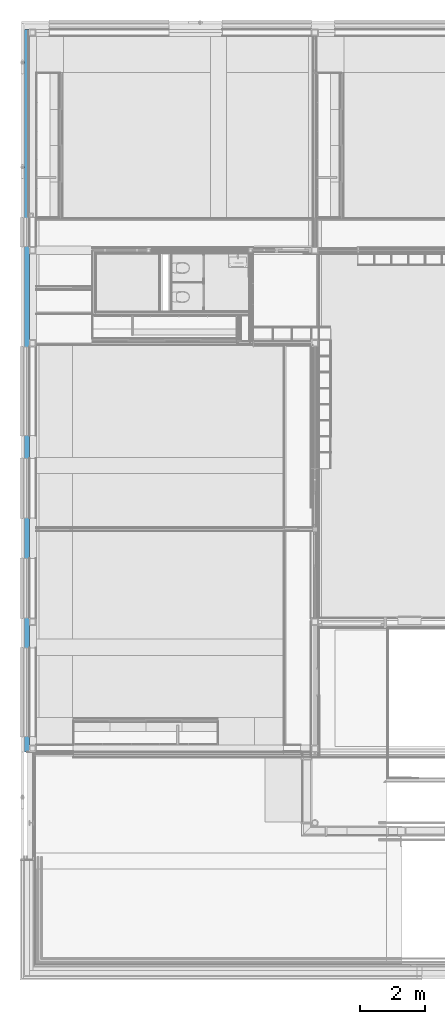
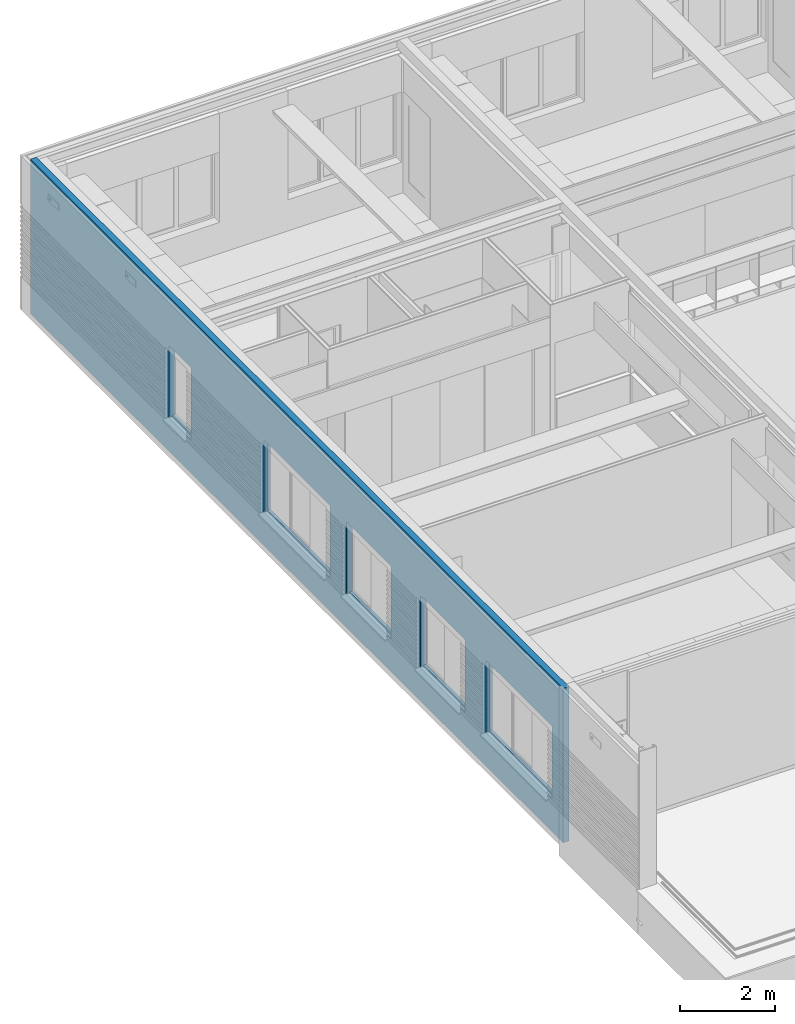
# One storey, part 75 of 137: 1 building element part, 5 openings, 1 element without a shape of its own.
"""IFC2X3 building model written with IfcOpenShell, lengths in millimetres."""

from ifc_helpers import new_model, entity, si_unit, converted_unit, derived_unit, money_unit, direction, frame, origin_with_axes, place, context, subcontext, project, spatial, faceted_brep, material, type_object, element, aggregate, save


model = new_model("IFC2X3")

# Units and contexts
model_context = context("Model", 3, precision=0.01, world=origin_with_axes(), true_north=direction((0.0, 1.0)))
body_context = subcontext(model_context, "Body", "Model", "MODEL_VIEW")
ifc_project = project(units=[si_unit("LENGTHUNIT", "METRE", prefix="MILLI"), si_unit("AREAUNIT", "SQUARE_METRE"), si_unit("VOLUMEUNIT", "CUBIC_METRE"), converted_unit("PLANEANGLEUNIT", "DEGREE", entity("IfcPlaneAngleMeasure", 0.0174532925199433), si_unit("PLANEANGLEUNIT", "RADIAN"), dimensions=[0, 0, 0, 0, 0, 0, 0]), money_unit("EUR"), converted_unit("TIMEUNIT", "Year", entity("IfcTimeMeasure", 31556926.0), si_unit("TIMEUNIT", "SECOND"), dimensions=[0, 0, 1, 0, 0, 0, 0]), si_unit("MASSUNIT", "GRAM", prefix="KILO"), si_unit("THERMODYNAMICTEMPERATUREUNIT", "DEGREE_CELSIUS"), si_unit("LUMINOUSINTENSITYUNIT", "LUMEN"), si_unit("ENERGYUNIT", "JOULE", prefix="MEGA"), derived_unit("THERMALCONDUCTANCEUNIT", [(si_unit("POWERUNIT", "WATT"), 1), (si_unit("LENGTHUNIT", "METRE"), -1), (si_unit("THERMODYNAMICTEMPERATUREUNIT", "KELVIN"), -1)]), derived_unit("SPECIFICHEATCAPACITYUNIT", [(si_unit("ENERGYUNIT", "JOULE"), 1), (si_unit("MASSUNIT", "GRAM", prefix="KILO"), -1), (si_unit("THERMODYNAMICTEMPERATUREUNIT", "KELVIN"), -1)]), derived_unit("MASSDENSITYUNIT", [(si_unit("MASSUNIT", "GRAM", prefix="KILO"), 1), (si_unit("VOLUMEUNIT", "CUBIC_METRE"), -1)])], contexts=[model_context])

# Site, building, storey
site_placement = place(None, origin_with_axes())
site = spatial("IfcSite", under=ifc_project, at=site_placement, Name="Site", CompositionType="ELEMENT")
building_placement = place(site_placement, origin_with_axes())
building = spatial("IfcBuilding", under=site, at=building_placement, Name="Naam gebouw", CompositionType="ELEMENT")
storey_placement = place(building_placement, frame((0.0, 0.0, 3960.0), z_axis=(0.0, 0.0, 1.0), x_axis=(1.0, 0.0, 0.0)))
storey = spatial("IfcBuildingStorey", under=building, at=storey_placement, Name="1e verdieping", CompositionType="ELEMENT", Elevation=3960.0)

# Wall, openings, building element part
wall_type = type_object("IfcWallType", Name="21 Buitenwand spouwmuur 464", PredefinedType="NOTDEFINED")
wall_placement = place(storey_placement, frame((0.0, 6779.999999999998, -100.0000000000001), z_axis=(0.0, 0.0, 1.0), x_axis=(0.0, 1.0, 0.0)))
wall = element("IfcWall", 1, at=wall_placement, inside=storey, type_object=wall_type, Name="21_Wand-x")
opening_1_placement = place(wall_placement, frame((8169.999811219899, 0.0, 899.9999999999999), z_axis=(0.0, 0.0, 1.0), x_axis=(1.0, 0.0, 0.0)))
element("IfcOpeningElement", 2, at=opening_1_placement, cuts=wall, Name="_Merk BD", context=body_context, shape_type="Brep", body=[
    faceted_brep([(925.0000000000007, 0.0, 0.0), (925.0000000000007, 0.0, 1810.0), (925.0000000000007, 0.0, 2810.0), (925.0000000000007, -215.0000000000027, 2810.0), (925.0000000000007, -215.0000000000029, 0.0), (925.0000000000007, 72.00000000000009, 0.0), (925.0000000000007, 72.0000000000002, 1810.0), (-925.0000000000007, 0.0, 1810.0), (-925.0000000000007, 0.0, 2810.0), (-925.0000000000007, -215.0000000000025, 2810.0), (-925.0000000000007, -215.0000000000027, 0.0), (-925.0000000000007, 0.0, 0.0), (-925.0000000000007, 72.00000000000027, 0.0), (-925.0000000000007, 72.00000000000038, 1810.0), (-935.0000000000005, 72.00000000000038, 1810.0), (-935.0000000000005, 72.00000000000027, -44.99999999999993), (935.0000000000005, 72.00000000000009, -44.99999999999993), (935.0000000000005, 72.0000000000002, 1810.0), (935.0000000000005, 251.0000000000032, 1810.0), (-935.0000000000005, 251.0000000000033, 1810.0), (-935.0000000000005, 251.0000000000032, -44.99999999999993), (935.0000000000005, 251.000000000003, -44.99999999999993)], [[[0, 1, 2, 3, 4]], [[1, 0, 5, 6]], [[1, 7, 8, 2]], [[2, 8, 9, 3]], [[9, 10, 4, 3]], [[0, 4, 10, 11, 12, 5]], [[12, 13, 14, 15, 16, 17, 6, 5]], [[7, 1, 6, 13]], [[7, 11, 10, 9, 8]], [[11, 7, 13, 12]], [[13, 6, 17, 18, 19, 14]], [[15, 14, 19, 20]], [[16, 15, 20, 21]], [[17, 16, 21, 18]], [[18, 21, 20, 19]]]),
])
opening_2_placement = place(wall_placement, frame((11179.9998112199, 0.0, 899.9999999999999), z_axis=(0.0, 0.0, 1.0), x_axis=(1.0, 0.0, 0.0)))
element("IfcOpeningElement", 3, at=opening_2_placement, cuts=wall, Name="_Merk BB", context=body_context, shape_type="Brep", body=[
    faceted_brep([(1375.0, 0.0, 0.0), (1375.0, 0.0, 1810.0), (1375.0, 0.0, 2810.0), (1375.0, -215.0000000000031, 2810.0), (1375.0, -215.0000000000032, 0.0), (1375.0, 72.00000000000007, 0.0), (1375.0, 72.00000000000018, 1810.0), (-1375.0, 0.0, 1810.0), (-1375.0, 0.0, 2810.0), (-1375.0, -215.0000000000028, 2810.0), (-1375.0, -215.0000000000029, 0.0), (-1375.0, 0.0, 0.0), (-1375.0, 72.00000000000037, 0.0), (-1375.0, 72.00000000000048, 1810.0), (-1384.999999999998, 72.00000000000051, 1810.0), (-1384.999999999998, 72.0000000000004, -44.99999999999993), (1384.999999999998, 72.00000000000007, -44.99999999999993), (1384.999999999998, 72.00000000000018, 1810.0), (1384.999999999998, 251.000000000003, 1810.0), (-1384.999999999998, 251.0000000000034, 1810.0), (-1384.999999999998, 251.0000000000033, -44.99999999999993), (1384.999999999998, 251.000000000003, -44.99999999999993)], [[[0, 1, 2, 3, 4]], [[1, 0, 5, 6]], [[1, 7, 8, 2]], [[2, 8, 9, 3]], [[9, 10, 4, 3]], [[0, 4, 10, 11, 12, 5]], [[12, 13, 14, 15, 16, 17, 6, 5]], [[7, 1, 6, 13]], [[7, 11, 10, 9, 8]], [[11, 7, 13, 12]], [[13, 6, 17, 18, 19, 14]], [[15, 14, 19, 20]], [[16, 15, 20, 21]], [[17, 16, 21, 18]], [[18, 21, 20, 19]]]),
])
opening_3_placement = place(wall_placement, frame((5070.000110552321, 0.0, 899.9999999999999), z_axis=(0.0, 0.0, 1.0), x_axis=(1.0, 0.0, 0.0)))
element("IfcOpeningElement", 4, at=opening_3_placement, cuts=wall, Name="_Merk BD", context=body_context, shape_type="Brep", body=[
    faceted_brep([(925.0000000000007, 0.0, 0.0), (925.0000000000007, 0.0, 1810.0), (925.0000000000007, 0.0, 2810.0), (925.0000000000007, -215.0000000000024, 2810.0), (925.0000000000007, -215.0000000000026, 0.0), (925.0000000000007, 72.00000000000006, 0.0), (925.0000000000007, 72.00000000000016, 1810.0), (-925.0000000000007, 0.0, 1810.0), (-925.0000000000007, 0.0, 2810.0), (-925.0000000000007, -215.0000000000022, 2810.0), (-925.0000000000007, -215.0000000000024, 0.0), (-925.0000000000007, 0.0, 0.0), (-925.0000000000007, 72.00000000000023, 0.0), (-925.0000000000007, 72.00000000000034, 1810.0), (-935.0000000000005, 72.00000000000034, 1810.0), (-935.0000000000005, 72.00000000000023, -44.99999999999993), (935.0000000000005, 72.00000000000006, -44.99999999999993), (935.0000000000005, 72.00000000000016, 1810.0), (935.0000000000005, 251.0000000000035, 1810.0), (-935.0000000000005, 251.0000000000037, 1810.0), (-935.0000000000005, 251.0000000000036, -44.99999999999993), (935.0000000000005, 251.0000000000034, -44.99999999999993)], [[[0, 1, 2, 3, 4]], [[1, 0, 5, 6]], [[1, 7, 8, 2]], [[2, 8, 9, 3]], [[9, 10, 4, 3]], [[0, 4, 10, 11, 12, 5]], [[12, 13, 14, 15, 16, 17, 6, 5]], [[7, 1, 6, 13]], [[7, 11, 10, 9, 8]], [[11, 7, 13, 12]], [[13, 6, 17, 18, 19, 14]], [[15, 14, 19, 20]], [[16, 15, 20, 21]], [[17, 16, 21, 18]], [[18, 21, 20, 19]]]),
])
opening_4_placement = place(wall_placement, frame((1850.0, 0.0, 899.9999999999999), z_axis=(0.0, 0.0, 1.0), x_axis=(1.0, 0.0, 0.0)))
element("IfcOpeningElement", 5, at=opening_4_placement, cuts=wall, Name="_Merk BB", context=body_context, shape_type="Brep", body=[
    faceted_brep([(1375.0, 0.0, 0.0), (1375.0, 0.0, 1810.0), (1375.0, 0.0, 2810.0), (1375.0, -215.000000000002, 2810.0), (1375.0, -215.0000000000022, 0.0), (1375.0, 71.99999999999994, 0.0), (1375.0, 72.00000000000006, 1810.0), (-1375.0, 0.0, 1810.0), (-1375.0, 0.0, 2810.0), (-1375.0, -215.0000000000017, 2810.0), (-1375.0, -215.0000000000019, 0.0), (-1375.0, 0.0, 0.0), (-1375.0, 72.00000000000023, 0.0), (-1375.0, 72.00000000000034, 1810.0), (-1385.0, 72.00000000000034, 1810.0), (-1385.0, 72.00000000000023, -44.99999999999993), (1385.0, 71.99999999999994, -44.99999999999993), (1385.0, 72.00000000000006, 1810.0), (1385.0, 251.000000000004, 1810.0), (-1385.0, 251.0000000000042, 1810.0), (-1385.0, 251.0000000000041, -44.99999999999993), (1385.0, 251.0000000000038, -44.99999999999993)], [[[0, 1, 2, 3, 4]], [[1, 0, 5, 6]], [[1, 7, 8, 2]], [[2, 8, 9, 3]], [[9, 10, 4, 3]], [[0, 4, 10, 11, 12, 5]], [[12, 13, 14, 15, 16, 17, 6, 5]], [[7, 1, 6, 13]], [[7, 11, 10, 9, 8]], [[11, 7, 13, 12]], [[13, 6, 17, 18, 19, 14]], [[15, 14, 19, 20]], [[16, 15, 20, 21]], [[17, 16, 21, 18]], [[18, 21, 20, 19]]]),
])
opening_5_placement = place(wall_placement, frame((16109.99984707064, 0.0, 899.9999999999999), z_axis=(0.0, 0.0, 1.0), x_axis=(1.0, 0.0, 0.0)))
element("IfcOpeningElement", 6, at=opening_5_placement, cuts=wall, Name="_Merk BF", context=body_context, shape_type="Brep", body=[
    faceted_brep([(449.9999999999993, 0.0, 0.0), (449.9999999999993, 0.0, 1810.0), (449.9999999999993, 0.0, 2810.0), (449.9999999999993, -215.0000000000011, 2810.0), (449.9999999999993, -215.0000000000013, 0.0), (449.9999999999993, 72.0000000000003, 0.0), (449.9999999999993, 72.00000000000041, 1810.0), (-449.9999999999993, 0.0, 1810.0), (-449.9999999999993, 0.0, 2810.0), (-449.9999999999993, -215.0000000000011, 2810.0), (-449.9999999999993, -215.0000000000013, 0.0), (-449.9999999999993, 0.0, 0.0), (-449.9999999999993, 72.00000000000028, 0.0), (-449.9999999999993, 72.0000000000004, 1810.0), (-460.0000000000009, 72.0000000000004, 1810.0), (-460.0000000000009, 72.00000000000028, -44.99999999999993), (460.0000000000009, 72.0000000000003, -44.99999999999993), (460.0000000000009, 72.00000000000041, 1810.0), (460.0000000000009, 251.0000000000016, 1810.0), (-460.0000000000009, 251.0000000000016, 1810.0), (-460.0000000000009, 251.0000000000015, -44.99999999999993), (460.0000000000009, 251.0000000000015, -44.99999999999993)], [[[0, 1, 2, 3, 4]], [[1, 0, 5, 6]], [[1, 7, 8, 2]], [[2, 8, 9, 3]], [[9, 10, 4, 3]], [[0, 4, 10, 11, 12, 5]], [[12, 13, 14, 15, 16, 17, 6, 5]], [[7, 1, 6, 13]], [[7, 11, 10, 9, 8]], [[11, 7, 13, 12]], [[13, 6, 17, 18, 19, 14]], [[15, 14, 19, 20]], [[16, 15, 20, 21]], [[17, 16, 21, 18]], [[18, 21, 20, 19]]]),
])
ifc_material = material(Name="Isolatie - Steenwol zacht")
building_element_part_placement = place(wall_placement, origin_with_axes())
building_element_part = element("IfcBuildingElementPart", 7, at=building_element_part_placement, material=ifc_material, Name="Isolatie - Steenwol zacht", context=body_context, shape_type="Brep", body=[
    faceted_brep([(475.0000000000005, 72.00000000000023, 899.9999999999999), (3225.0, 71.99999999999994, 899.9999999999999), (3225.0, 72.00000000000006, 2710.0), (3235.0, 72.00000000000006, 2710.0), (3235.0, 71.99999999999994, 855.0), (465.0000000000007, 72.00000000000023, 855.0), (465.0000000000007, 72.00000000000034, 2710.0), (475.0000000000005, 72.00000000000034, 2710.0), (475.0000000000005, 0.0, 899.9999999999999), (3225.0, 0.0, 899.9999999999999), (3225.0, 0.0, 2710.0), (465.0000000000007, 144.9999999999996, 2710.0), (3235.0, 144.9999999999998, 2710.0), (3235.0, 144.9999999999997, 855.0), (465.0000000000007, 144.9999999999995, 855.0), (475.0000000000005, 0.0, 2710.0), (-9.281464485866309e-10, 0.0, 3685.000001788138), (0.0, 0.0, 0.0), (22004.84433875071, 0.0, 0.0), (16732.718964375, 0.0, 3685.000001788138), (15659.99984707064, 0.0, 899.9999999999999), (15659.99984707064, 0.0, 2710.0), (16559.99984707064, 0.0, 2710.0), (16559.99984707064, 0.0, 899.9999999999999), (12554.9998112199, 0.0, 2710.0), (12554.9998112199, 0.0, 899.9999999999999), (9804.999811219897, 0.0, 899.9999999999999), (9804.999811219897, 0.0, 2710.0), (7244.999811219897, 0.0, 899.9999999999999), (7244.999811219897, 0.0, 2710.0), (9094.9998112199, 0.0, 2710.0), (9094.9998112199, 0.0, 899.9999999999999), (5995.000110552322, 0.0, 2710.0), (5995.000110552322, 0.0, 899.9999999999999), (4145.00011055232, 0.0, 899.9999999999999), (4145.00011055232, 0.0, 2710.0), (22395.0, 145.0000000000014, 0.0), (0.0, 144.9999999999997, 0.0), (0.0, 144.9999999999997, 3960.0), (22395.0, 145.0000000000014, 3960.0), (16569.99984707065, 145.0000000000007, 855.0), (16569.99984707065, 145.0000000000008, 2710.0), (15649.99984707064, 145.0000000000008, 2710.0), (15649.99984707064, 145.0000000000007, 855.0), (9794.9998112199, 145.0000000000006, 2710.0), (9794.9998112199, 145.0000000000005, 855.0), (12564.9998112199, 145.0000000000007, 855.0), (12564.9998112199, 145.0000000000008, 2710.0), (9104.999811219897, 145.0000000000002, 855.0), (9104.999811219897, 145.0000000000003, 2710.0), (7234.999811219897, 145.0000000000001, 2710.0), (7234.999811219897, 145.0, 855.0), (4135.00011055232, 145.0000000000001, 2710.0), (4135.00011055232, 145.0, 855.0), (6005.000110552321, 145.0000000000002, 855.0), (6005.000110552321, 145.0000000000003, 2710.0), (-9.281464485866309e-10, 0.9999995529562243, 3960.000001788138), (-9.281464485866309e-10, 15.99999955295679, 3685.000001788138), (-9.281464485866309e-10, 15.99999955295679, 3695.000001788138), (-9.281464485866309e-10, 0.9999995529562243, 3695.000001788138), (22395.0, 0.0, 0.0), (22214.30877414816, 0.0, 0.0), (22214.30877414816, 14.99999999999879, 0.0), (22004.84433875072, 14.99999999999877, 0.0), (16711.25848373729, 14.99999999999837, 0.0), (16920.72291913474, 14.99999999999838, 0.0), (16920.72291913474, 29.99999999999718, 0.0), (16711.25848373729, 29.99999999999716, 0.0), (19358.051411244, 14.99999999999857, 1849.999999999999), (16732.718964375, 14.99999999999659, 3685.000001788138), (19462.78362894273, 14.99999999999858, 1776.796463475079), (21983.383858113, 14.99999999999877, 3685.000001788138), (21983.383858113, 15.99999955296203, 3685.000001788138), (16942.18339977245, 14.99999999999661, 3685.000001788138), (16942.18339977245, 0.0, 3685.000001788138), (22395.0, 0.0, 3685.000001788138), (22395.0, 15.99999955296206, 3685.000001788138), (22192.84829351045, 15.99999955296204, 3685.000001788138), (22192.84829351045, 14.99999999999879, 3685.000001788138), (15659.99984707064, 72.00000000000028, 899.9999999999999), (15659.99984707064, 72.0000000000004, 2710.0), (16559.99984707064, 72.00000000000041, 2710.0), (16559.99984707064, 72.0000000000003, 899.9999999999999), (12554.9998112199, 72.00000000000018, 2710.0), (12554.9998112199, 72.00000000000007, 899.9999999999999), (9804.999811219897, 72.00000000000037, 899.9999999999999), (9804.999811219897, 72.00000000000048, 2710.0), (7244.999811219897, 72.00000000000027, 899.9999999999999), (7244.999811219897, 72.00000000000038, 2710.0), (9094.9998112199, 72.0000000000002, 2710.0), (9094.9998112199, 72.00000000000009, 899.9999999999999), (5995.000110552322, 72.00000000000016, 2710.0), (5995.000110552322, 72.00000000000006, 899.9999999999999), (4145.00011055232, 72.00000000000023, 899.9999999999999), (4145.00011055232, 72.00000000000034, 2710.0), (22395.0, 0.9999995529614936, 3960.000001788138), (22395.0, 0.9999995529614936, 3695.000001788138), (22395.0, 15.99999955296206, 3695.000001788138), (16569.99984707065, 72.0000000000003, 855.0), (16569.99984707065, 72.00000000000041, 2710.0), (15649.99984707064, 72.0000000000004, 2710.0), (15649.99984707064, 72.00000000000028, 855.0), (9794.9998112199, 72.0000000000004, 855.0), (9794.9998112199, 72.00000000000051, 2710.0), (12564.9998112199, 72.00000000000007, 855.0), (12564.9998112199, 72.00000000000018, 2710.0), (9104.999811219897, 72.00000000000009, 855.0), (9104.999811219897, 72.0000000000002, 2710.0), (7234.999811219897, 72.00000000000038, 2710.0), (7234.999811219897, 72.00000000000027, 855.0), (4135.00011055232, 72.00000000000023, 855.0), (4135.00011055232, 72.00000000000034, 2710.0), (6005.000110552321, 72.00000000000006, 855.0), (6005.000110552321, 72.00000000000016, 2710.0), (21997.69084691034, 15.99999955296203, 3695.000001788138), (16718.41197557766, 0.9999995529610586, 3695.000001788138), (21997.69084691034, 14.99999999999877, 3695.000001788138), (22207.15528230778, 14.99999999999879, 3695.000001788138), (22207.15528230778, 15.99999955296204, 3695.000001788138), (16927.87641097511, 0.9999995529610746, 3695.000001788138), (16927.87641097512, 14.99999999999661, 3695.000001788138), (16718.41197557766, 14.99999999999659, 3695.000001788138), (16595.62647009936, 0.999999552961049, 3780.822048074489), (16664.37322404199, 0.9999995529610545, 3879.177951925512), (19462.78362894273, 14.99999999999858, 1923.20353652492), (19567.51584664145, 14.99999999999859, 1850.0), (22329.94078778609, 14.9999999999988, 3780.822048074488), (22329.94078778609, 29.99999999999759, 3780.822048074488), (22261.19403384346, 29.99999999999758, 3879.177951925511), (22261.19403384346, 14.99999999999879, 3879.177951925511), (16664.37322404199, 14.99999999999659, 3879.177951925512), (16595.62647009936, 14.99999999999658, 3780.822048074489)], [[[0, 1, 2, 3, 4, 5, 6, 7]], [[8, 9, 1, 0]], [[9, 10, 2, 1]], [[2, 7, 6, 11, 12, 3]], [[13, 4, 3, 12]], [[14, 5, 4, 13]], [[11, 6, 5, 14]], [[15, 8, 0, 7]], [[16, 17, 18, 19], [20, 21, 22, 23], [24, 25, 26, 27], [28, 29, 30, 31], [32, 33, 34, 35], [8, 15, 10, 9]], [[10, 15, 7, 2]], [[36, 37, 38, 39], [40, 41, 42, 43], [44, 45, 46, 47], [48, 49, 50, 51], [52, 53, 54, 55], [13, 12, 11, 14]], [[56, 38, 37, 17, 16, 57, 58, 59]], [[18, 17, 37, 36, 60, 61, 62, 63], [64, 65, 66, 67]], [[68, 69, 19, 18, 63, 70]], [[71, 72, 57, 16, 19, 69, 73, 74, 75, 76, 77, 78]], [[21, 20, 79, 80]], [[22, 21, 80, 81]], [[23, 22, 81, 82]], [[20, 23, 82, 79]], [[83, 84, 25, 24]], [[84, 85, 26, 25]], [[85, 86, 27, 26]], [[86, 83, 24, 27]], [[29, 28, 87, 88]], [[30, 29, 88, 89]], [[31, 30, 89, 90]], [[28, 31, 90, 87]], [[91, 92, 33, 32]], [[92, 93, 34, 33]], [[93, 94, 35, 34]], [[94, 91, 32, 35]], [[95, 39, 38, 56]], [[76, 75, 60, 36, 39, 95, 96, 97]], [[40, 98, 99, 41]], [[81, 80, 100, 42, 41, 99]], [[42, 100, 101, 43]], [[43, 101, 98, 40]], [[102, 45, 44, 103]], [[104, 46, 45, 102]], [[105, 47, 46, 104]], [[83, 86, 103, 44, 47, 105]], [[48, 106, 107, 49]], [[89, 88, 108, 50, 49, 107]], [[50, 108, 109, 51]], [[51, 109, 106, 48]], [[110, 53, 52, 111]], [[112, 54, 53, 110]], [[113, 55, 54, 112]], [[91, 94, 111, 52, 55, 113]], [[114, 58, 57, 72]], [[115, 59, 58, 114, 116, 117, 118, 97, 96, 119, 120, 121]], [[95, 56, 59, 115, 122, 123, 119, 96]], [[74, 61, 60, 75]], [[61, 74, 73, 124, 125, 62]], [[62, 125, 70, 63]], [[70, 65, 64, 68]], [[78, 77, 118, 117, 126, 127, 66, 65, 70, 125]], [[66, 127, 128, 67]], [[114, 72, 71, 124, 68, 64, 67, 128, 129, 116]], [[69, 68, 124, 73]], [[97, 118, 77, 76]], [[78, 125, 124, 71]], [[79, 82, 81, 99, 98, 101, 100, 80]], [[103, 86, 85, 84, 83, 105, 104, 102]], [[106, 109, 108, 88, 87, 90, 89, 107]], [[91, 113, 112, 110, 111, 94, 93, 92]], [[116, 129, 126, 117]], [[123, 130, 120, 119]], [[120, 130, 131, 121]], [[121, 131, 122, 115]], [[122, 131, 130, 123]], [[126, 129, 128, 127]]]),
])
aggregate(wall, [building_element_part])

save(model, "model.ifc")
